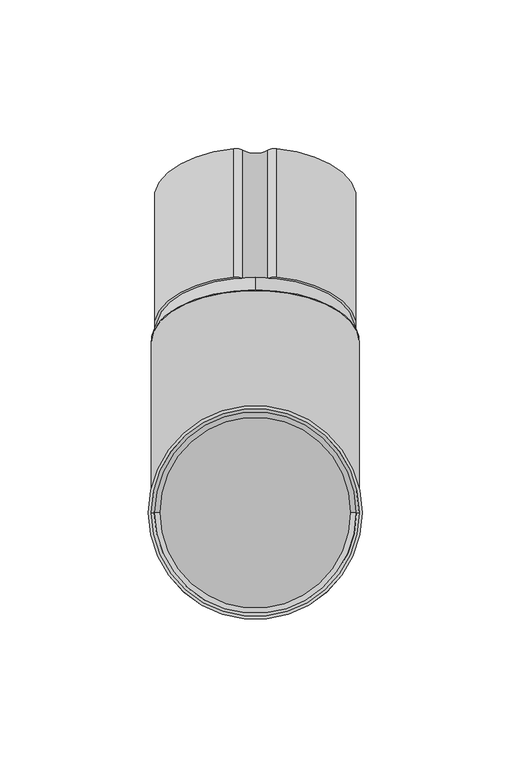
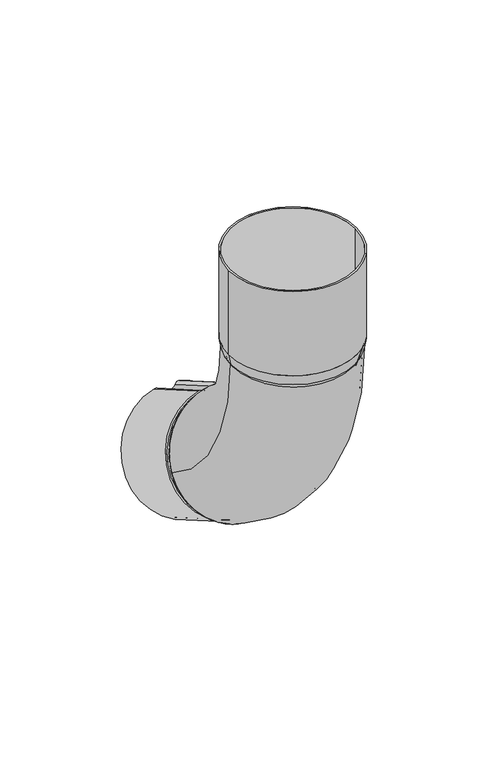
"""IFC4 building model written with IfcOpenShell, lengths in millimetres: proxy geometry, GROVIK_Downpipe_Elbow : N70_60°_Down."""

from ifc_helpers import new_model, si_unit, point, frame, frame_2d, origin, origin_with_axes, origin_2d, place, context, project, spatial, polyline, circle_curve, ellipse_curve, trimmed, segment, composite_curve, outline, extrude, source, transform, mapped, element, save
from ifc_brep_helpers import plane_surface, revolved_surface, advanced_brep


def generic_models_4c1000cd(model_context):
    return source(origin(), model_context, "Body", "SolidModel", [
        extrude(outline(composite_curve([segment(trimmed(circle_curve(origin_2d(), 34.0), [point((-7.2, -33.2289031))], [point((-7.2, 33.2289031))], False, "CARTESIAN"), True, "CONTINUOUS"), segment(trimmed(circle_curve(frame_2d((-6.6504209, 30.1934465)), 3.0848069), [point((-7.2, 33.2289031))], [point((-4.2037022, 32.0721697))], False, "CARTESIAN"), True, "CONTINUOUS"), segment(trimmed(circle_curve(frame_2d((0.0, 35.3)), 5.3), [point((-4.2037022, 32.0721697))], [point((4.2058428, 32.0749594))], True, "CARTESIAN"), True, "CONTINUOUS"), segment(trimmed(circle_curve(frame_2d((6.6465812, 30.203401)), 3.0757007), [point((4.2058428, 32.0749594))], [point((7.2, 33.2289031))], False, "CARTESIAN"), True, "CONTINUOUS"), segment(trimmed(circle_curve(origin_2d(), 34.0), [point((7.2, 33.2289031))], [point((7.2, -33.2289031))], False, "CARTESIAN"), True, "CONTINUOUS"), segment(trimmed(circle_curve(frame_2d((6.6465812, -30.203401)), 3.0757007), [point((7.2, -33.2289031))], [point((4.2058428, -32.0749594))], False, "CARTESIAN"), True, "CONTINUOUS"), segment(trimmed(circle_curve(frame_2d((0.0, -35.3)), 5.3), [point((4.2058428, -32.0749594))], [point((-4.2037022, -32.0721698))], True, "CARTESIAN"), True, "CONTINUOUS"), segment(trimmed(circle_curve(frame_2d((-6.6504209, -30.1934466)), 3.0848069), [point((-4.2037022, -32.0721698))], [point((-7.2, -33.2289031))], False, "CARTESIAN"), True, "CONTINUOUS")], self_intersect=False), holes=[composite_curve([segment(trimmed(circle_curve(frame_2d((-6.6504209, -30.1934466)), 2.0848069), [point((-7.1903364, -32.2071275))], [point((-4.9968535, -31.4631453))], True, "CARTESIAN"), True, "CONTINUOUS"), segment(trimmed(circle_curve(frame_2d((0.0, -35.3)), 6.3), [point((-4.9968535, -31.4631453))], [point((4.999398, -31.4664612))], False, "CARTESIAN"), True, "CONTINUOUS"), segment(trimmed(circle_curve(frame_2d((6.6465812, -30.203401)), 2.0757007), [point((4.999398, -31.4664612))], [point((7.1790209, -32.2096517))], True, "CARTESIAN"), True, "CONTINUOUS"), segment(trimmed(circle_curve(origin_2d(), 33.0), [point((7.1790209, -32.2096517))], [point((7.1790209, 32.2096516))], True, "CARTESIAN"), True, "CONTINUOUS"), segment(trimmed(circle_curve(frame_2d((6.6465812, 30.203401)), 2.0757007), [point((7.1790209, 32.2096516))], [point((4.999398, 31.4664612))], True, "CARTESIAN"), True, "CONTINUOUS"), segment(trimmed(circle_curve(frame_2d((0.0, 35.3)), 6.3), [point((4.999398, 31.4664612))], [point((-4.9968535, 31.4631452))], False, "CARTESIAN"), True, "CONTINUOUS"), segment(trimmed(circle_curve(frame_2d((-6.6504209, 30.1934465)), 2.0848069), [point((-4.9968535, 31.4631452))], [point((-7.1903364, 32.2071275))], True, "CARTESIAN"), True, "CONTINUOUS"), segment(trimmed(circle_curve(origin_2d(), 33.0), [point((-7.1903364, 32.2071275))], [point((-7.1903364, -32.2071275))], True, "CARTESIAN"), True, "CONTINUOUS")], self_intersect=False)]), frame((0.0, 105.9974226, -127.5929214), z_axis=(0.0, -0.8660254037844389, 0.49999999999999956), x_axis=(1.0, 0.0, 0.0)), (0.0, 0.0, 1.0), 50.0),
        extrude(outline(composite_curve([segment(trimmed(circle_curve(origin_2d(), 36.0), [point((-36.0, 0.0))], [point((36.0, 0.0))], False, "CARTESIAN"), True, "CONTINUOUS"), segment(trimmed(circle_curve(origin_2d(), 36.0), [point((36.0, 0.0))], [point((-36.0, 0.0))], False, "CARTESIAN"), True, "CONTINUOUS")], self_intersect=False), holes=[composite_curve([segment(trimmed(circle_curve(origin_2d(), 35.0), [point((-35.0, 0.0))], [point((35.0, 0.0))], True, "CARTESIAN"), True, "CONTINUOUS"), segment(trimmed(circle_curve(origin_2d(), 35.0), [point((35.0, 0.0))], [point((-35.0, 0.0))], True, "CARTESIAN"), True, "CONTINUOUS")], self_intersect=False)]), frame((0.0, 0.0, 6.0), z_axis=(0.0, 0.0, 1.0), x_axis=(1.0, 0.0, 0.0)), (0.0, 0.0, 1.0), 50.0),
        advanced_brep(
        [(-35.0, 0.0, 0.0), (35.0, 0.0, 0.0), (34.0, 0.0, 0.0), (-34.0, 0.0, 0.0), (-36.0, 0.0, 6.0), (36.0, 0.0, 6.0), (-35.0, 0.0, 6.0), (35.0, 0.0, 6.0)],
        [
            (0, 1, circle_curve(frame((0.0, 0.0, 0.0), z_axis=(0.0, 0.0, -1.0), x_axis=(-1.0, 0.0, 0.0)), 35.0)),
            (1, 0, circle_curve(frame((0.0, 0.0, 0.0), z_axis=(0.0, 0.0, -1.0), x_axis=(1.0, 0.0, 0.0)), 35.0)),
            (2, 3, circle_curve(frame((0.0, 0.0, 0.0), z_axis=(0.0, 0.0, 1.0), x_axis=(-1.0, 0.0, 0.0)), 34.0)),
            (3, 2, circle_curve(origin_with_axes(), 34.0)),
            (4, 5, circle_curve(frame((0.0, 0.0, 6.0), z_axis=(0.0, 0.0, 1.0), x_axis=(1.0, 0.0, 0.0)), 36.0)),
            (5, 4, circle_curve(frame((0.0, 0.0, 6.0), z_axis=(0.0, 0.0, 1.0), x_axis=(-1.0, 0.0, 0.0)), 36.0)),
            (6, 7, circle_curve(frame((0.0, 0.0, 6.0), z_axis=(0.0, 0.0, -1.0), x_axis=(-1.0, 0.0, 0.0)), 35.0)),
            (7, 6, circle_curve(frame((0.0, 0.0, 6.0), z_axis=(0.0, 0.0, -1.0), x_axis=(1.0, 0.0, 0.0)), 35.0)),
            (0, 4),
            (5, 1),
            (6, 3),
            (2, 7),
        ],
        [
            plane_surface(frame((0.0, 0.0, 0.0), z_axis=(0.0, 0.0, -1.0), x_axis=(0.0, 1.0, 0.0))),
            plane_surface(frame((0.0, 0.0, 6.0), z_axis=(0.0, 0.0, 1.0), x_axis=(0.0, 1.0, 0.0))),
            revolved_surface(polyline([(-35.0, 0.0, 0.0), (-36.0, 0.0, 6.0)]), (0.0, 0.0, -210.0), (0.0, 0.0, 1.0)),
            revolved_surface(polyline([(35.0, 0.0, 0.0), (36.0, 0.0, 6.0)]), (0.0, 0.0, -210.0), (0.0, 0.0, 1.0)),
            revolved_surface(polyline([(-35.0, 0.0, 6.0), (-34.0, 0.0, 0.0)]), (0.0, 0.0, -204.0), (0.0, 0.0, 1.0)),
        ],
        [
            (0, [[1, 2], [3, 4]]),
            (1, [[5, 6], [7, 8]]),
            (2, [[-1, 9, -6, 10]]),
            (3, [[-2, -10, -5, -9]]),
            (4, [[11, -3, 12, -7]]),
            (4, [[-11, -8, -12, -4]]),
        ],
    ),
        advanced_brep(
        [(0.0, 46.0961524, -131.3449648), (0.0, 79.2961524, -73.840878), (0.0, 78.7961524, -74.7069034), (0.0, 46.5961524, -130.4789394), (0.0, 40.0, -129.9038106), (0.0, 75.0, -69.2820323), (0.0, 40.5, -129.0377852), (0.0, 74.5, -70.1480577)],
        [
            (0, 1, circle_curve(frame((0.0, 62.6961524, -102.5929214), z_axis=(0.0, 0.8660254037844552, -0.4999999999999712), x_axis=(0.0, -0.4999999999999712, -0.8660254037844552)), 33.2)),
            (1, 0, circle_curve(frame((0.0, 62.6961524, -102.5929214), z_axis=(0.0, 0.8660254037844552, -0.4999999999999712), x_axis=(0.0, 0.49999999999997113, 0.8660254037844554)), 33.2)),
            (2, 3, circle_curve(frame((0.0, 62.6961524, -102.5929214), z_axis=(0.0, -0.86602540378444, 0.499999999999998), x_axis=(0.0, -0.49999999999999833, -0.8660254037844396)), 32.2)),
            (3, 2, circle_curve(frame((0.0, 62.6961524, -102.5929214), z_axis=(0.0, -0.86602540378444, 0.499999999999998), x_axis=(0.0, 0.4999999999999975, 0.8660254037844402)), 32.2)),
            (4, 5, circle_curve(frame((0.0, 57.5, -99.5929214), z_axis=(0.0, -0.8660254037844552, 0.4999999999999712), x_axis=(0.0, 0.49999999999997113, 0.8660254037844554)), 35.0)),
            (5, 4, circle_curve(frame((0.0, 57.5, -99.5929214), z_axis=(0.0, -0.8660254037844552, 0.4999999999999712), x_axis=(0.0, -0.4999999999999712, -0.8660254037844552)), 35.0)),
            (6, 7, circle_curve(frame((0.0, 57.5, -99.5929214), z_axis=(0.0, 0.86602540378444, -0.499999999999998), x_axis=(0.0, -0.49999999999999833, -0.8660254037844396)), 34.0)),
            (7, 6, circle_curve(frame((0.0, 57.5, -99.5929214), z_axis=(0.0, 0.86602540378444, -0.499999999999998), x_axis=(0.0, 0.4999999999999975, 0.8660254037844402)), 34.0)),
            (0, 4),
            (5, 1),
            (6, 3),
            (2, 7),
        ],
        [
            plane_surface(frame((0.0, 62.6961524, -102.5929214), z_axis=(0.0, 0.8660254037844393, -0.499999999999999), x_axis=(-1.0, 0.0, 0.0))),
            plane_surface(frame((0.0, 57.5, -99.5929214), z_axis=(0.0, -0.8660254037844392, 0.4999999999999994), x_axis=(-1.0, 0.0, 0.0))),
            revolved_surface(polyline([(0.0, 46.096152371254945, -131.344964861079), (0.0, 39.99999996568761, -129.90381059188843)]), (0.0, 158.5362971, -157.9262548), (0.0, -0.8660254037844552, 0.4999999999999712)),
            revolved_surface(polyline([(0.0, 79.29615239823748, -73.84087800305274), (0.0, 74.99999998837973, -69.28203228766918)]), (0.0, 158.5362971, -157.9262548), (0.0, -0.8660254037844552, 0.4999999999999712)),
            revolved_surface(polyline([(0.0, 40.49999996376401, -129.03778519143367), (0.0, 46.5961523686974, -130.47893945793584)]), (0.0, 155.6495458, -156.2595881), (0.0, -0.8660254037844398, 0.4999999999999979)),
        ],
        [
            (0, [[1, 2], [3, 4]]),
            (1, [[5, 6], [7, 8]]),
            (2, [[-1, 9, -6, 10]]),
            (3, [[-2, -10, -5, -9]]),
            (4, [[11, -3, 12, -7]]),
            (4, [[-11, -8, -12, -4]]),
        ],
    ),
        advanced_brep(
        [(-33.2, 0.0, -6.0), (33.2, 0.0, -6.0), (-32.2, 0.0, -6.0), (32.2, 0.0, -6.0), (-35.0, 0.0, 0.0), (35.0, 0.0, 0.0), (34.0, 0.0, 0.0), (-34.0, 0.0, 0.0)],
        [
            (0, 1, circle_curve(frame((0.0, 0.0, -6.0), z_axis=(0.0, 0.0, -1.0), x_axis=(-1.0, 0.0, 0.0)), 33.2)),
            (1, 0, circle_curve(frame((0.0, 0.0, -6.0), z_axis=(0.0, 0.0, -1.0), x_axis=(1.0, 0.0, 0.0)), 33.2)),
            (2, 3, circle_curve(frame((0.0, 0.0, -6.0), z_axis=(0.0, 0.0, 1.0), x_axis=(1.0, 0.0, 0.0)), 32.2)),
            (3, 2, circle_curve(frame((0.0, 0.0, -6.0), z_axis=(0.0, 0.0, 1.0), x_axis=(-1.0, 0.0, 0.0)), 32.2)),
            (4, 5, circle_curve(origin_with_axes(), 35.0)),
            (5, 4, circle_curve(frame((0.0, 0.0, 0.0), z_axis=(0.0, 0.0, 1.0), x_axis=(-1.0, 0.0, 0.0)), 35.0)),
            (6, 7, circle_curve(frame((0.0, 0.0, 0.0), z_axis=(0.0, 0.0, -1.0), x_axis=(1.0, 0.0, 0.0)), 34.0)),
            (7, 6, circle_curve(frame((0.0, 0.0, 0.0), z_axis=(0.0, 0.0, -1.0), x_axis=(-1.0, 0.0, 0.0)), 34.0)),
            (1, 5),
            (4, 0),
            (6, 3),
            (2, 7),
        ],
        [
            plane_surface(frame((0.0, 0.0, -6.0), z_axis=(0.0, 0.0, -1.0), x_axis=(0.0, 1.0, 0.0))),
            plane_surface(frame((0.0, 0.0, 0.0), z_axis=(0.0, 0.0, 1.0), x_axis=(0.0, 1.0, 0.0))),
            revolved_surface(polyline([(33.20000000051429, 0.0, -6.0), (35.0, 0.0, 0.0)]), (0.0, 0.0, -116.6666667), (0.0, 0.0, 1.0)),
            revolved_surface(polyline([(-33.20000000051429, 0.0, -6.0), (-35.0, 0.0, 0.0)]), (0.0, 0.0, -116.6666667), (0.0, 0.0, 1.0)),
            revolved_surface(polyline([(34.0, 0.0, 0.0), (32.19999999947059, 0.0, -6.0)]), (0.0, 0.0, -113.3333333), (0.0, 0.0, 1.0)),
        ],
        [
            (0, [[1, 2], [3, 4]]),
            (1, [[5, 6], [7, 8]]),
            (2, [[-2, 9, -5, 10]]),
            (3, [[-1, -10, -6, -9]]),
            (4, [[11, -3, 12, -7]]),
            (4, [[-11, -8, -12, -4]]),
        ],
    ),
        advanced_brep(
        [(-35.0, 0.0, 0.0), (35.0, 0.0, 0.0), (-34.0, 0.0, 0.0), (34.0, 0.0, 0.0), (-35.0, 57.5, -99.5929214), (35.0, 57.5, -99.5929214), (-34.0, 57.5, -99.5929214), (34.0, 57.5, -99.5929214)],
        [
            (0, 1, circle_curve(origin_with_axes(), 35.0)),
            (1, 0, circle_curve(origin_with_axes(), 35.0)),
            (2, 3, circle_curve(frame((0.0, 0.0, 0.0), z_axis=(0.0, 0.0, -1.0), x_axis=(1.0, 0.0, 0.0)), 34.0)),
            (3, 2, circle_curve(frame((0.0, 0.0, 0.0), z_axis=(0.0, 0.0, -1.0), x_axis=(1.0, 0.0, 0.0)), 34.0)),
            (4, 5, circle_curve(frame((0.0, 57.5, -99.5929214), z_axis=(0.0, 0.8660254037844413, -0.4999999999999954), x_axis=(1.0, 0.0, 0.0)), 35.0)),
            (5, 4, circle_curve(frame((0.0, 57.5, -99.5929214), z_axis=(0.0, 0.8660254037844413, -0.4999999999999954), x_axis=(1.0, 0.0, 0.0)), 35.0)),
            (6, 7, circle_curve(frame((0.0, 57.5, -99.5929214), z_axis=(0.0, -0.8660254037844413, 0.4999999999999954), x_axis=(1.0, 0.0, 0.0)), 34.0)),
            (7, 6, circle_curve(frame((0.0, 57.5, -99.5929214), z_axis=(0.0, -0.8660254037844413, 0.4999999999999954), x_axis=(1.0, 0.0, 0.0)), 34.0)),
            (7, 3, circle_curve(frame((34.0, 115.0, 0.0), z_axis=(-1.0, 0.0, 0.0), x_axis=(0.0, -1.0, 0.0)), 115.0)),
            (2, 6, circle_curve(frame((-34.0, 115.0, 0.0), z_axis=(1.0, 0.0, 0.0), x_axis=(0.0, -1.0, 0.0)), 115.0)),
            (5, 1, circle_curve(frame((35.0, 115.0, 0.0), z_axis=(-1.0, 0.0, 0.0), x_axis=(0.0, -1.0, 0.0)), 115.0)),
            (0, 4, circle_curve(frame((-35.0, 115.0, 0.0), z_axis=(1.0, 0.0, 0.0), x_axis=(0.0, -1.0, 0.0)), 115.0)),
        ],
        [
            plane_surface(origin_with_axes()),
            plane_surface(frame((0.0, 57.5, -99.5929214), z_axis=(0.0, 0.8660254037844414, -0.4999999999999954), x_axis=(1.0, 0.0, 0.0))),
            revolved_surface(trimmed(ellipse_curve(frame((0.0, 0.0, 0.0), z_axis=(0.0, 0.0, -1.0), x_axis=(1.0, 0.0, 0.0)), 34.0, 34.0), [point((-34.0, 0.0, 0.0))], [point((34.0, 0.0, 0.0))], True, "CARTESIAN"), (0.0, 115.0, 0.0), (1.0, 0.0, 0.0)),
            revolved_surface(trimmed(ellipse_curve(frame((0.0, 0.0, 0.0), z_axis=(0.0, 0.0, -1.0), x_axis=(1.0, 0.0, 0.0)), 34.0, 34.0), [point((34.0, 0.0, 0.0))], [point((-34.0, 0.0, 0.0))], True, "CARTESIAN"), (0.0, 115.0, 0.0), (1.0, 0.0, 0.0)),
            revolved_surface(trimmed(ellipse_curve(origin_with_axes(), 35.0, 35.0), [point((-35.0, 0.0, 0.0))], [point((35.0, 0.0, 0.0))], True, "CARTESIAN"), (0.0, 115.0, 0.0), (1.0, 0.0, 0.0)),
            revolved_surface(trimmed(ellipse_curve(origin_with_axes(), 35.0, 35.0), [point((35.0, 0.0, 0.0))], [point((-35.0, 0.0, 0.0))], True, "CARTESIAN"), (0.0, 115.0, 0.0), (1.0, 0.0, 0.0)),
        ],
        [
            (0, [[1, 2], [3, 4]]),
            (1, [[5, 6], [7, 8]]),
            (2, [[9, -3, 10, -8]]),
            (3, [[-10, -4, -9, -7]]),
            (4, [[11, -1, 12, -6]]),
            (5, [[-12, -2, -11, -5]]),
        ],
    ),
    ])


if __name__ == "__main__":
    model = new_model("IFC4")
    model_context = context("Model", 3, world=origin())
    ifc_project = project(units=[si_unit("LENGTHUNIT", "METRE", prefix="MILLI")], contexts=[model_context])
    site = spatial("IfcSite", under=ifc_project)
    building = spatial("IfcBuilding", under=site)
    placement = place(None, origin())
    generic_models_shape = generic_models_4c1000cd(model_context)
    element("IfcBuildingElementProxy", 1, Name="GROVIK_Downpipe_Elbow : N70_60°_Down", ObjectType="GROVIK_Downpipe_Elbow : N70_60°_Down", at=placement, inside=building, context=model_context, shape_type="MappedRepresentation", body=[
        mapped(generic_models_shape, transform((0.0, 0.0, 0.0), x_axis=(1.0, 0.0, 0.0), y_axis=(0.0, 1.0, 0.0), z_axis=(0.0, 0.0, 1.0))),
    ])
    save(model, "model.ifc")
